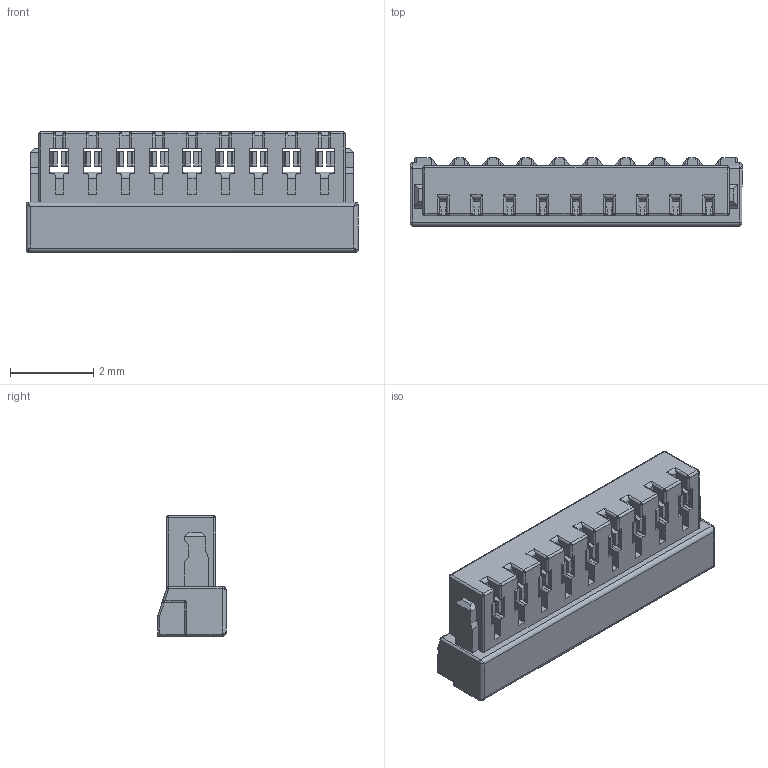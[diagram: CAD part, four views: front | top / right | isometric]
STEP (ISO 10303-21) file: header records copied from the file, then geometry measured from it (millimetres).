
FILE_DESCRIPTION((''),'2;1');
FILE_NAME('SCT0800HI-09','2023-03-26T10:12:08',('Administrator'),(''),'CREO PARAMETRIC BY PTC INC, 2018050','CREO PARAMETRIC BY PTC INC, 2018050','');
FILE_SCHEMA(('CONFIG_CONTROL_DESIGN'));
Length unit declared in the file: millimetre
Products named in the file (1): SCT0800HI-09
Bounding box: 8 x 1.65 x 2.9 mm (x, y, z)
Volume: 20.3 mm3; surface area: 152 mm2
Topology: 1 solids, 1 shells, 1618 faces, 4702 edges, 2954 vertices
Faces by surface type: plane 1079, cylinder 477, sphere 56, bspline 5, torus 1
Entity records: 52966 total; most frequent: CARTESIAN_POINT 9936, ORIENTED_EDGE 9320, DIRECTION 8738, EDGE_CURVE 4660, VECTOR 3632, LINE 3632, VERTEX_POINT 2954, AXIS2_PLACEMENT_3D 2553
